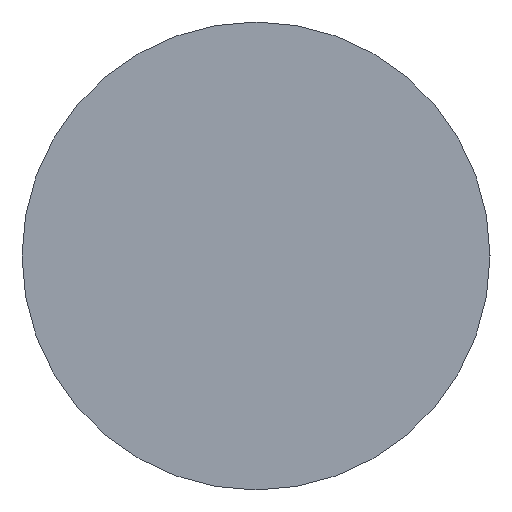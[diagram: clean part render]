
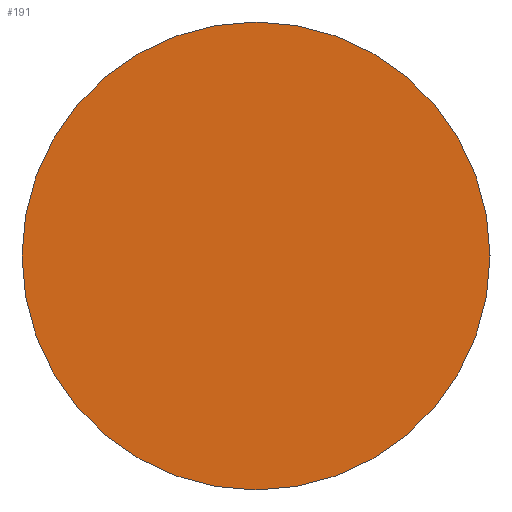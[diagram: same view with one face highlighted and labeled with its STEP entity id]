
A CAD part, left-side view. The second image highlights one B-rep face of the part: STEP entity #191.
In plain terms, the highlighted planar face has unit normal (-1, 0, 0).
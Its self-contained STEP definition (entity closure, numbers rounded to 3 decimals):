
#5 = EDGE_CURVE ( 'NONE', #245, #51, #203, .T. ) ;
#18 = EDGE_CURVE ( 'NONE', #51, #245, #232, .T. ) ;
#24 = ORIENTED_EDGE ( 'NONE', *, *, #5, .F. ) ;
#30 = CARTESIAN_POINT ( 'NONE',  ( 0., -1.5, 0. ) ) ;
#40 = CARTESIAN_POINT ( 'NONE',  ( 0., 0., 0. ) ) ;
#51 = VERTEX_POINT ( 'NONE', #153 ) ;
#72 = ORIENTED_EDGE ( 'NONE', *, *, #18, .F. ) ;
#80 = CARTESIAN_POINT ( 'NONE',  ( 0., 0., 0. ) ) ;
#108 = FACE_OUTER_BOUND ( 'NONE', #258, .T. ) ;
#120 = DIRECTION ( 'NONE',  ( 0., 1., 0. ) ) ;
#129 = AXIS2_PLACEMENT_3D ( 'NONE', #40, #131, #120 ) ;
#131 = DIRECTION ( 'NONE',  ( 1., 0., 0. ) ) ;
#148 = CARTESIAN_POINT ( 'NONE',  ( 0., 0., 0. ) ) ;
#153 = CARTESIAN_POINT ( 'NONE',  ( 0., 1.5, 0. ) ) ;
#175 = PLANE ( 'NONE',  #224 ) ;
#191 = ADVANCED_FACE ( 'NONE', ( #108 ), #175, .T. ) ;
#195 = DIRECTION ( 'NONE',  ( -1., 0., 0. ) ) ;
#198 = DIRECTION ( 'NONE',  ( 0., -1., 0. ) ) ;
#203 = CIRCLE ( 'NONE', #242, 1.5 ) ;
#212 = DIRECTION ( 'NONE',  ( 0., 1., 0. ) ) ;
#223 = DIRECTION ( 'NONE',  ( 1., 0., 0. ) ) ;
#224 = AXIS2_PLACEMENT_3D ( 'NONE', #148, #195, #198 ) ;
#232 = CIRCLE ( 'NONE', #129, 1.5 ) ;
#242 = AXIS2_PLACEMENT_3D ( 'NONE', #80, #223, #212 ) ;
#245 = VERTEX_POINT ( 'NONE', #30 ) ;
#258 = EDGE_LOOP ( 'NONE', ( #72, #24 ) ) ;
